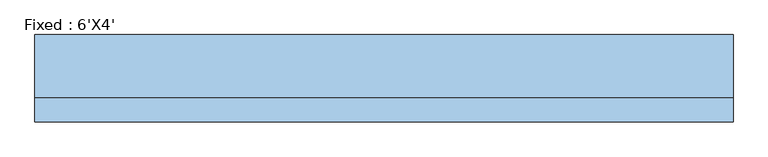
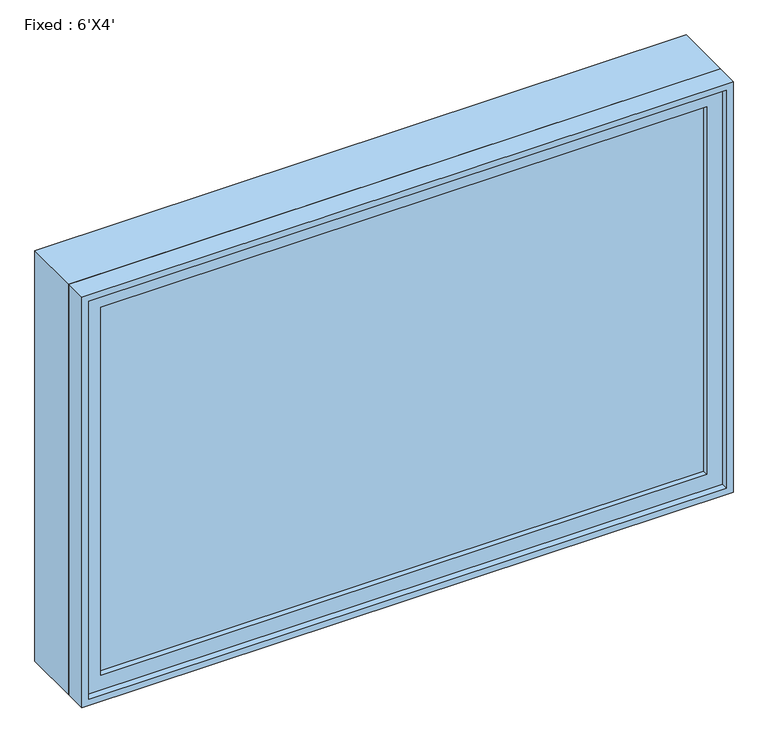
"""IFC4 building model written with IfcOpenShell, lengths in millimetres: window geometry, Fixed : 6'X4'."""

from ifc_helpers import new_model, si_unit, frame, origin, place, context, project, spatial, polyline, outline, extrude, source, transform, mapped, element, save


def fixed_6_x4_596a66d7(model_context):
    return source(origin(), model_context, "Body", "SweptSolid", [
        extrude(outline(polyline([(812.8, -66.675), (812.8, -79.375), (-889.0, -79.375), (-889.0, -66.675), (812.8, -66.675)])), frame((0.0, 0.0, 977.9), z_axis=(0.0, 0.0, 1.0), x_axis=(1.0, 0.0, 0.0)), (0.0, 0.0, 1.0), 1092.2),
        extrude(outline(polyline([(2114.55, -933.45), (933.45, -933.45), (933.45, 857.25), (2114.55, 857.25), (2114.55, -933.45)]), holes=[polyline([(2070.1, -889.0), (2070.1, 812.8), (977.9, 812.8), (977.9, -889.0), (2070.1, -889.0)])]), frame((0.0, -95.25, 0.0), z_axis=(0.0, 1.0, 0.0), x_axis=(0.0, 0.0, 1.0)), (0.0, 0.0, 1.0), 44.45),
        extrude(outline(polyline([(2133.6, -952.5), (914.4, -952.5), (914.4, 876.3), (2133.6, 876.3), (2133.6, -952.5)]), holes=[polyline([(2101.85, -920.75), (2101.85, 844.55), (946.15, 844.55), (946.15, -920.75), (2101.85, -920.75)])]), frame((0.0, -50.8, 0.0), z_axis=(0.0, 1.0, 0.0), x_axis=(0.0, 0.0, 1.0)), (0.0, 0.0, 1.0), 165.1),
        extrude(outline(polyline([(2133.6, 876.3), (2133.6, -952.5), (914.4, -952.5), (914.4, 876.3), (2133.6, 876.3)]), holes=[polyline([(2114.55, 857.25), (933.45, 857.25), (933.45, -933.45), (2114.55, -933.45), (2114.55, 857.25)])]), frame((0.0, -114.3, 0.0), z_axis=(0.0, 1.0, 0.0), x_axis=(0.0, 0.0, 1.0)), (0.0, 0.0, 1.0), 63.5),
    ])


if __name__ == "__main__":
    model = new_model("IFC4")
    model_context = context("Model", 3, world=origin())
    ifc_project = project(units=[si_unit("LENGTHUNIT", "METRE", prefix="MILLI")], contexts=[model_context])
    site = spatial("IfcSite", under=ifc_project)
    building = spatial("IfcBuilding", under=site)
    placement = place(None, origin())
    fixed_6_x4_shape = fixed_6_x4_596a66d7(model_context)
    element("IfcWindow", 1, ObjectType="Fixed : 6'X4'", at=placement, inside=building, context=model_context, shape_type="MappedRepresentation", body=[
        mapped(fixed_6_x4_shape, transform((0.0, 0.0, 0.0), x_axis=(1.0, 0.0, 0.0), y_axis=(0.0, 1.0, 0.0), z_axis=(0.0, 0.0, 1.0))),
    ])
    save(model, "model.ifc")
